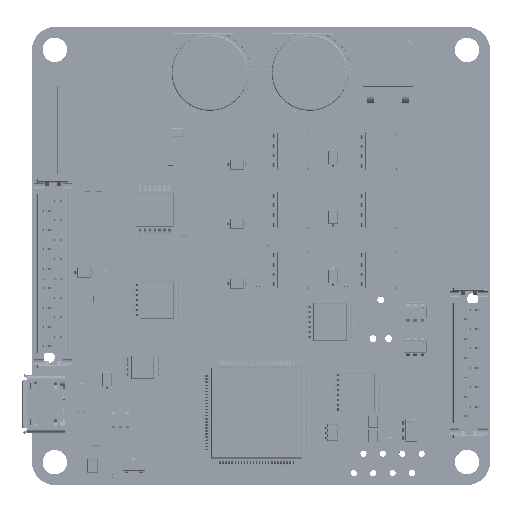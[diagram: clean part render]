
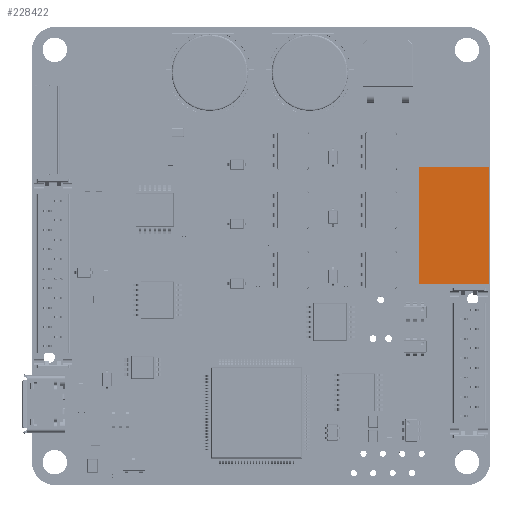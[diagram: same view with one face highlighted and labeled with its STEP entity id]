
A CAD part, top view. The second image highlights one B-rep face of the part: STEP entity #228422.
In plain terms, the highlighted planar face has unit normal (0, 0, 1) as drawn and (0, 1, 0) by its records, which use the part's own axes.
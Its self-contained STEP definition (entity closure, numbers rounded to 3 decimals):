
#227712 = VERTEX_POINT('',#227713);
#227713 = CARTESIAN_POINT('',(-7.696,6.858,4.572));
#227721 = EDGE_CURVE('',#227722,#227712,#227724,.T.);
#227722 = VERTEX_POINT('',#227723);
#227723 = CARTESIAN_POINT('',(7.696,6.858,4.572));
#227724 = LINE('',#227725,#227726);
#227725 = CARTESIAN_POINT('',(7.696,6.858,4.572));
#227726 = VECTOR('',#227727,1.);
#227727 = DIRECTION('',(-1.,0.,0.));
#228221 = VERTEX_POINT('',#228222);
#228222 = CARTESIAN_POINT('',(-7.696,6.858,-4.572));
#228228 = EDGE_CURVE('',#227712,#228221,#228229,.T.);
#228229 = LINE('',#228230,#228231);
#228230 = CARTESIAN_POINT('',(-7.696,6.858,4.572));
#228231 = VECTOR('',#228232,1.);
#228232 = DIRECTION('',(0.,0.,-1.));
#228403 = EDGE_CURVE('',#227722,#228404,#228406,.T.);
#228404 = VERTEX_POINT('',#228405);
#228405 = CARTESIAN_POINT('',(7.696,6.858,-4.572));
#228406 = LINE('',#228407,#228408);
#228407 = CARTESIAN_POINT('',(7.696,6.858,4.572));
#228408 = VECTOR('',#228409,1.);
#228409 = DIRECTION('',(0.,0.,-1.));
#228422 = ADVANCED_FACE('',(#228423),#228434,.T.);
#228423 = FACE_BOUND('',#228424,.F.);
#228424 = EDGE_LOOP('',(#228425,#228426,#228427,#228433));
#228425 = ORIENTED_EDGE('',*,*,#227721,.T.);
#228426 = ORIENTED_EDGE('',*,*,#228228,.T.);
#228427 = ORIENTED_EDGE('',*,*,#228428,.F.);
#228428 = EDGE_CURVE('',#228404,#228221,#228429,.T.);
#228429 = LINE('',#228430,#228431);
#228430 = CARTESIAN_POINT('',(7.696,6.858,-4.572));
#228431 = VECTOR('',#228432,1.);
#228432 = DIRECTION('',(-1.,0.,0.));
#228433 = ORIENTED_EDGE('',*,*,#228403,.F.);
#228434 = PLANE('',#228435);
#228435 = AXIS2_PLACEMENT_3D('',#228436,#228437,#228438);
#228436 = CARTESIAN_POINT('',(7.696,6.858,4.572));
#228437 = DIRECTION('',(0.,1.,0.));
#228438 = DIRECTION('',(-1.,0.,0.));
